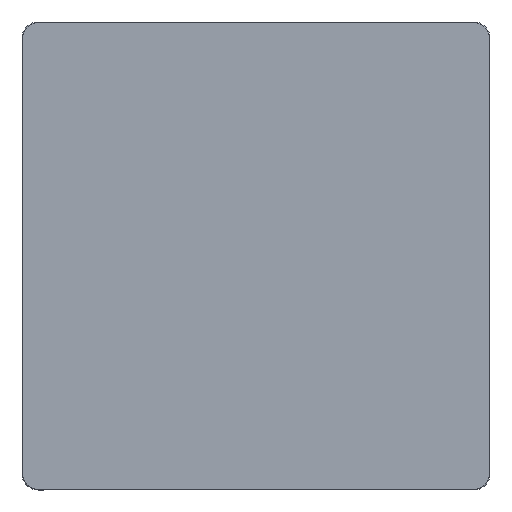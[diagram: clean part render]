
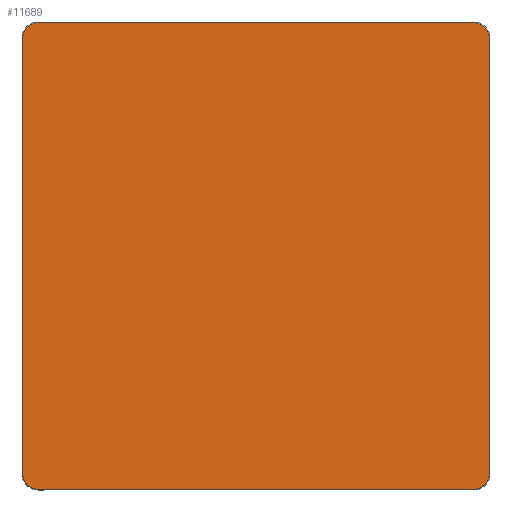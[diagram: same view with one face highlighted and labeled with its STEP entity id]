
A CAD part, top view. The second image highlights one B-rep face of the part: STEP entity #11689.
In plain terms, the highlighted planar face has unit normal (0, 0, 1).
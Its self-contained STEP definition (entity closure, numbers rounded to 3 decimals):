
#11614=CARTESIAN_POINT('',(0.,0.,20.));
#11615=DIRECTION('',(1.,0.,0.));
#11616=DIRECTION('',(0.,0.,1.));
#11617=AXIS2_PLACEMENT_3D('',#11614,#11616,#11615);
#11618=PLANE('',#11617);
#11619=CARTESIAN_POINT('',(-465.,-498.5,20.));
#11620=VERTEX_POINT('',#11619);
#11621=CARTESIAN_POINT('',(465.,-498.5,20.));
#11622=VERTEX_POINT('',#11621);
#11623=CARTESIAN_POINT('',(-465.,-498.5,20.));
#11624=DIRECTION('',(1.,0.,0.));
#11625=VECTOR('',#11624,930.);
#11626=LINE('',#11623,#11625);
#11627=EDGE_CURVE('',#11620,#11622,#11626,.T.);
#11628=ORIENTED_EDGE('E105',*,*,#11627,.T.);
#11629=CARTESIAN_POINT('',(498.5,-465.,20.));
#11630=VERTEX_POINT('',#11629);
#11631=CARTESIAN_POINT('',(465.,-465.,20.));
#11632=DIRECTION('',(0.,-1.,0.));
#11633=DIRECTION('',(0.,0.,1.));
#11634=AXIS2_PLACEMENT_3D('',#11631,#11633,#11632);
#11635=CIRCLE('',#11634,33.5);
#11636=EDGE_CURVE('',#11622,#11630,#11635,.T.);
#11637=ORIENTED_EDGE('E107',*,*,#11636,.T.);
#11638=CARTESIAN_POINT('',(498.5,465.,20.));
#11639=VERTEX_POINT('',#11638);
#11640=CARTESIAN_POINT('',(498.5,-465.,20.));
#11641=DIRECTION('',(0.,1.,0.));
#11642=VECTOR('',#11641,930.);
#11643=LINE('',#11640,#11642);
#11644=EDGE_CURVE('',#11630,#11639,#11643,.T.);
#11645=ORIENTED_EDGE('E109',*,*,#11644,.T.);
#11646=CARTESIAN_POINT('',(465.,498.5,20.));
#11647=VERTEX_POINT('',#11646);
#11648=CARTESIAN_POINT('',(465.,465.,20.));
#11649=DIRECTION('',(1.,0.,0.));
#11650=DIRECTION('',(0.,0.,1.));
#11651=AXIS2_PLACEMENT_3D('',#11648,#11650,#11649);
#11652=CIRCLE('',#11651,33.5);
#11653=EDGE_CURVE('',#11639,#11647,#11652,.T.);
#11654=ORIENTED_EDGE('E111',*,*,#11653,.T.);
#11655=CARTESIAN_POINT('',(-465.,498.5,20.));
#11656=VERTEX_POINT('',#11655);
#11657=CARTESIAN_POINT('',(465.,498.5,20.));
#11658=DIRECTION('',(-1.,0.,0.));
#11659=VECTOR('',#11658,930.);
#11660=LINE('',#11657,#11659);
#11661=EDGE_CURVE('',#11647,#11656,#11660,.T.);
#11662=ORIENTED_EDGE('E113',*,*,#11661,.T.);
#11663=CARTESIAN_POINT('',(-498.5,465.,20.));
#11664=VERTEX_POINT('',#11663);
#11665=CARTESIAN_POINT('',(-465.,465.,20.));
#11666=DIRECTION('',(0.,1.,0.));
#11667=DIRECTION('',(0.,0.,1.));
#11668=AXIS2_PLACEMENT_3D('',#11665,#11667,#11666);
#11669=CIRCLE('',#11668,33.5);
#11670=EDGE_CURVE('',#11656,#11664,#11669,.T.);
#11671=ORIENTED_EDGE('E115',*,*,#11670,.T.);
#11672=CARTESIAN_POINT('',(-498.5,-465.,20.));
#11673=VERTEX_POINT('',#11672);
#11674=CARTESIAN_POINT('',(-498.5,465.,20.));
#11675=DIRECTION('',(0.,-1.,0.));
#11676=VECTOR('',#11675,930.);
#11677=LINE('',#11674,#11676);
#11678=EDGE_CURVE('',#11664,#11673,#11677,.T.);
#11679=ORIENTED_EDGE('E117',*,*,#11678,.T.);
#11680=CARTESIAN_POINT('',(-465.,-465.,20.));
#11681=DIRECTION('',(-1.,0.,0.));
#11682=DIRECTION('',(0.,0.,1.));
#11683=AXIS2_PLACEMENT_3D('',#11680,#11682,#11681);
#11684=CIRCLE('',#11683,33.5);
#11685=EDGE_CURVE('',#11673,#11620,#11684,.T.);
#11686=ORIENTED_EDGE('E119',*,*,#11685,.T.);
#11687=EDGE_LOOP('',(#11628,#11637,#11645,#11654,#11662,#11671,#11679,#11686));
#11688=FACE_OUTER_BOUND('',#11687,.T.);
#11689=ADVANCED_FACE('F2',(#11688),#11618,.T.);
